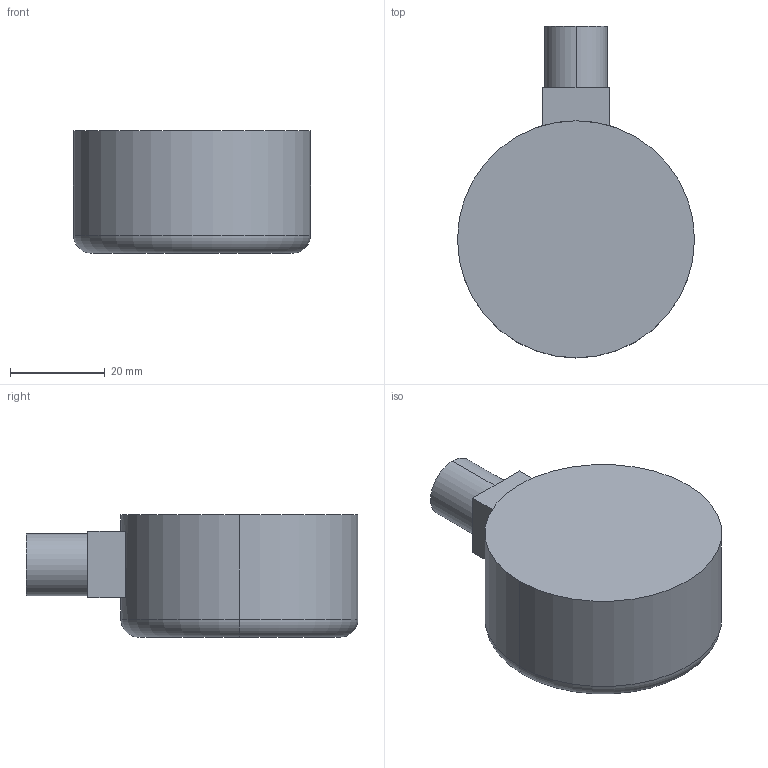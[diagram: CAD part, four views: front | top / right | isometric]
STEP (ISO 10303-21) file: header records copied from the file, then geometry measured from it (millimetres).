
FILE_DESCRIPTION (( 'STEP AP214' ), '1' );
FILE_NAME ('Manometr_grzewczy_hydrometr_x_0_3D_AFRISO.STEP', '2022-12-09T08:05:53', ( '' ), ( '' ), 'SwSTEP 2.0', 'SolidWorks 2022', '' );
FILE_SCHEMA (( 'AUTOMOTIVE_DESIGN' ));
Length unit declared in the file: millimetre
Products named in the file (1): Manometr_grzewczy_hydrometr_x_0_3D_AFRISO
Bounding box: 50 x 70 x 25.8 mm (x, y, z)
Volume: 53376.9 mm3; surface area: 8678.6 mm2
Topology: 1 solids, 1 shells, 14 faces, 28 edges, 18 vertices
Faces by surface type: plane 8, cylinder 4, torus 2
Entity records: 404 total; most frequent: DIRECTION 72, CARTESIAN_POINT 61, ORIENTED_EDGE 56, AXIS2_PLACEMENT_3D 29, EDGE_CURVE 28, VERTEX_POINT 18, EDGE_LOOP 16, LINE 14
